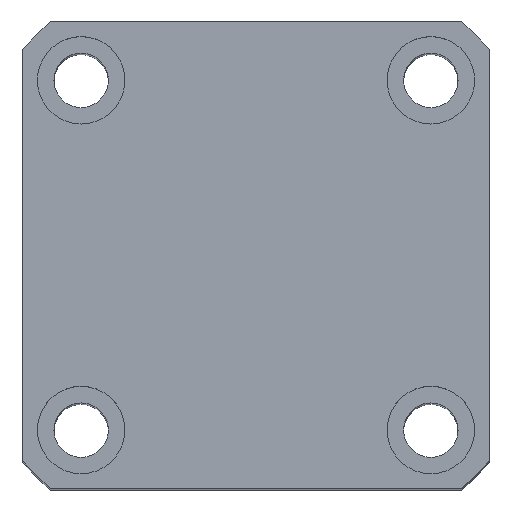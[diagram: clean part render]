
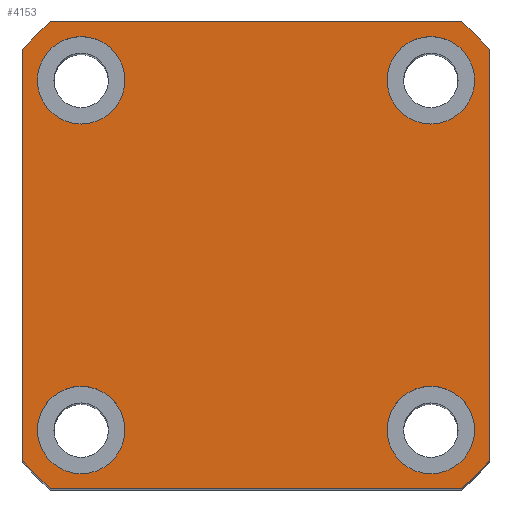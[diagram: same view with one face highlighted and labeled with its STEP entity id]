
A CAD part, top view. The second image highlights one B-rep face of the part: STEP entity #4153.
In plain terms, the highlighted planar face has unit normal (0, 0, 1) as drawn and (1, 0, 0) by its records, which use the part's own axes.
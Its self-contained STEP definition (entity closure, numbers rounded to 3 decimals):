
#33 = EDGE_CURVE ( 'NONE', #6769, #2540, #1278, .T. ) ;
#100 = LINE ( 'NONE', #640, #6467 ) ;
#264 = VERTEX_POINT ( 'NONE', #4826 ) ;
#270 = VERTEX_POINT ( 'NONE', #5014 ) ;
#342 = DIRECTION ( 'NONE',  ( 1., 0., 0. ) ) ;
#349 = CARTESIAN_POINT ( 'NONE',  ( 100., -18., -22.5 ) ) ;
#381 = CARTESIAN_POINT ( 'NONE',  ( 100., 24., 24. ) ) ;
#484 = CIRCLE ( 'NONE', #3973, 4.5 ) ;
#521 = AXIS2_PLACEMENT_3D ( 'NONE', #7913, #7947, #4277 ) ;
#545 = DIRECTION ( 'NONE',  ( -1., 0., 0. ) ) ;
#558 = EDGE_CURVE ( 'NONE', #4763, #7524, #595, .T. ) ;
#588 = AXIS2_PLACEMENT_3D ( 'NONE', #4273, #545, #4889 ) ;
#595 = LINE ( 'NONE', #6870, #6958 ) ;
#640 = CARTESIAN_POINT ( 'NONE',  ( 100., 24., -24. ) ) ;
#681 = EDGE_LOOP ( 'NONE', ( #4266, #5787 ) ) ;
#688 = DIRECTION ( 'NONE',  ( 0., 1., 0. ) ) ;
#706 = DIRECTION ( 'NONE',  ( 1., 0., 0. ) ) ;
#709 = CARTESIAN_POINT ( 'NONE',  ( 100., -18., 18. ) ) ;
#719 = DIRECTION ( 'NONE',  ( 0., 0., -1. ) ) ;
#743 = LINE ( 'NONE', #381, #5461 ) ;
#875 = VERTEX_POINT ( 'NONE', #2254 ) ;
#920 = AXIS2_PLACEMENT_3D ( 'NONE', #5704, #5692, #5678 ) ;
#937 = ORIENTED_EDGE ( 'NONE', *, *, #6387, .F. ) ;
#1027 = EDGE_CURVE ( 'NONE', #270, #1788, #5618, .T. ) ;
#1059 = VERTEX_POINT ( 'NONE', #5243 ) ;
#1118 = AXIS2_PLACEMENT_3D ( 'NONE', #4066, #342, #4688 ) ;
#1132 = CIRCLE ( 'NONE', #1408, 32. ) ;
#1152 = CARTESIAN_POINT ( 'NONE',  ( 100., 18., 18. ) ) ;
#1193 = EDGE_CURVE ( 'NONE', #7601, #2895, #5801, .T. ) ;
#1213 = EDGE_CURVE ( 'NONE', #875, #5323, #100, .T. ) ;
#1224 = FACE_OUTER_BOUND ( 'NONE', #7123, .T. ) ;
#1278 = CIRCLE ( 'NONE', #521, 4.5 ) ;
#1342 = EDGE_CURVE ( 'NONE', #2540, #6769, #484, .T. ) ;
#1405 = CARTESIAN_POINT ( 'NONE',  ( 100., 0., 0. ) ) ;
#1408 = AXIS2_PLACEMENT_3D ( 'NONE', #2735, #7054, #3386 ) ;
#1440 = ORIENTED_EDGE ( 'NONE', *, *, #1342, .F. ) ;
#1442 = VERTEX_POINT ( 'NONE', #7997 ) ;
#1455 = AXIS2_PLACEMENT_3D ( 'NONE', #709, #706, #719 ) ;
#1573 = EDGE_CURVE ( 'NONE', #264, #5221, #1826, .T. ) ;
#1577 = FACE_BOUND ( 'NONE', #6573, .T. ) ;
#1741 = DIRECTION ( 'NONE',  ( 0., 0., -1. ) ) ;
#1773 = CIRCLE ( 'NONE', #1118, 4.5 ) ;
#1788 = VERTEX_POINT ( 'NONE', #2227 ) ;
#1826 = CIRCLE ( 'NONE', #920, 4.5 ) ;
#1879 = CARTESIAN_POINT ( 'NONE',  ( 100., -24., -21.166 ) ) ;
#2028 = DIRECTION ( 'NONE',  ( 0., 0., 1. ) ) ;
#2178 = ORIENTED_EDGE ( 'NONE', *, *, #33, .F. ) ;
#2192 = DIRECTION ( 'NONE',  ( 0., -1., 0. ) ) ;
#2227 = CARTESIAN_POINT ( 'NONE',  ( 100., 24., 21.166 ) ) ;
#2254 = CARTESIAN_POINT ( 'NONE',  ( 100., -21.166, -24. ) ) ;
#2282 = CARTESIAN_POINT ( 'NONE',  ( 100., -18., 18. ) ) ;
#2412 = CARTESIAN_POINT ( 'NONE',  ( 100., 0., 0. ) ) ;
#2442 = DIRECTION ( 'NONE',  ( 1., 0., 0. ) ) ;
#2530 = CARTESIAN_POINT ( 'NONE',  ( 100., 18., -18. ) ) ;
#2540 = VERTEX_POINT ( 'NONE', #349 ) ;
#2594 = ORIENTED_EDGE ( 'NONE', *, *, #1213, .T. ) ;
#2735 = CARTESIAN_POINT ( 'NONE',  ( 100., 0., 0. ) ) ;
#2852 = FACE_BOUND ( 'NONE', #681, .T. ) ;
#2895 = VERTEX_POINT ( 'NONE', #6488 ) ;
#2919 = CARTESIAN_POINT ( 'NONE',  ( 100., 18., -22.5 ) ) ;
#2938 = DIRECTION ( 'NONE',  ( 0., 0., -1. ) ) ;
#2940 = ORIENTED_EDGE ( 'NONE', *, *, #5316, .F. ) ;
#3181 = DIRECTION ( 'NONE',  ( 0., 0., -1. ) ) ;
#3241 = DIRECTION ( 'NONE',  ( -1., 0., 0. ) ) ;
#3386 = DIRECTION ( 'NONE',  ( 0., 0., 1. ) ) ;
#3557 = ORIENTED_EDGE ( 'NONE', *, *, #4796, .F. ) ;
#3696 = PLANE ( 'NONE',  #7493 ) ;
#3933 = CIRCLE ( 'NONE', #6888, 32. ) ;
#3973 = AXIS2_PLACEMENT_3D ( 'NONE', #7437, #6752, #5654 ) ;
#3975 = EDGE_LOOP ( 'NONE', ( #7697, #4718 ) ) ;
#4019 = AXIS2_PLACEMENT_3D ( 'NONE', #2530, #6857, #3181 ) ;
#4030 = CARTESIAN_POINT ( 'NONE',  ( 100., 18., 13.5 ) ) ;
#4066 = CARTESIAN_POINT ( 'NONE',  ( 100., 18., 18. ) ) ;
#4153 = ADVANCED_FACE ( 'NONE', ( #1577, #6131, #4536, #2852, #1224 ), #3696, .T. ) ;
#4266 = ORIENTED_EDGE ( 'NONE', *, *, #5761, .F. ) ;
#4273 = CARTESIAN_POINT ( 'NONE',  ( 100., 0., 0. ) ) ;
#4277 = DIRECTION ( 'NONE',  ( 0., 0., -1. ) ) ;
#4335 = AXIS2_PLACEMENT_3D ( 'NONE', #1405, #5739, #2028 ) ;
#4536 = FACE_BOUND ( 'NONE', #6762, .T. ) ;
#4548 = VERTEX_POINT ( 'NONE', #5338 ) ;
#4688 = DIRECTION ( 'NONE',  ( 0., 0., -1. ) ) ;
#4718 = ORIENTED_EDGE ( 'NONE', *, *, #6780, .F. ) ;
#4763 = VERTEX_POINT ( 'NONE', #5197 ) ;
#4782 = ORIENTED_EDGE ( 'NONE', *, *, #5460, .F. ) ;
#4796 = EDGE_CURVE ( 'NONE', #270, #5323, #1132, .T. ) ;
#4826 = CARTESIAN_POINT ( 'NONE',  ( 100., 18., -13.5 ) ) ;
#4889 = DIRECTION ( 'NONE',  ( 0., 0., 1. ) ) ;
#5014 = CARTESIAN_POINT ( 'NONE',  ( 100., 24., -21.166 ) ) ;
#5197 = CARTESIAN_POINT ( 'NONE',  ( 100., -24., 21.166 ) ) ;
#5221 = VERTEX_POINT ( 'NONE', #2919 ) ;
#5243 = CARTESIAN_POINT ( 'NONE',  ( 100., -21.166, 24. ) ) ;
#5316 = EDGE_CURVE ( 'NONE', #4763, #1059, #7565, .T. ) ;
#5323 = VERTEX_POINT ( 'NONE', #7300 ) ;
#5338 = CARTESIAN_POINT ( 'NONE',  ( 100., 21.166, 24. ) ) ;
#5378 = DIRECTION ( 'NONE',  ( 0., 0., 1. ) ) ;
#5380 = CARTESIAN_POINT ( 'NONE',  ( 100., -18., -13.5 ) ) ;
#5460 = EDGE_CURVE ( 'NONE', #4548, #1788, #7366, .T. ) ;
#5461 = VECTOR ( 'NONE', #2192, 1000. ) ;
#5463 = DIRECTION ( 'NONE',  ( 1., 0., 0. ) ) ;
#5618 = LINE ( 'NONE', #5728, #7225 ) ;
#5654 = DIRECTION ( 'NONE',  ( 0., 0., -1. ) ) ;
#5678 = DIRECTION ( 'NONE',  ( 0., 0., -1. ) ) ;
#5692 = DIRECTION ( 'NONE',  ( 1., 0., 0. ) ) ;
#5704 = CARTESIAN_POINT ( 'NONE',  ( 100., 18., -18. ) ) ;
#5728 = CARTESIAN_POINT ( 'NONE',  ( 100., 24., 24. ) ) ;
#5739 = DIRECTION ( 'NONE',  ( -1., 0., 0. ) ) ;
#5761 = EDGE_CURVE ( 'NONE', #7224, #1442, #7848, .T. ) ;
#5787 = ORIENTED_EDGE ( 'NONE', *, *, #6082, .F. ) ;
#5801 = CIRCLE ( 'NONE', #1455, 4.5 ) ;
#5929 = ORIENTED_EDGE ( 'NONE', *, *, #6642, .T. ) ;
#5998 = ORIENTED_EDGE ( 'NONE', *, *, #1027, .T. ) ;
#6082 = EDGE_CURVE ( 'NONE', #1442, #7224, #1773, .T. ) ;
#6100 = ORIENTED_EDGE ( 'NONE', *, *, #558, .T. ) ;
#6131 = FACE_BOUND ( 'NONE', #3975, .T. ) ;
#6327 = EDGE_CURVE ( 'NONE', #5221, #264, #7173, .T. ) ;
#6379 = AXIS2_PLACEMENT_3D ( 'NONE', #1152, #5463, #1741 ) ;
#6387 = EDGE_CURVE ( 'NONE', #875, #7524, #3933, .T. ) ;
#6467 = VECTOR ( 'NONE', #688, 1000. ) ;
#6488 = CARTESIAN_POINT ( 'NONE',  ( 100., -18., 22.5 ) ) ;
#6573 = EDGE_LOOP ( 'NONE', ( #1440, #2178 ) ) ;
#6619 = DIRECTION ( 'NONE',  ( 1., 0., 0. ) ) ;
#6624 = ORIENTED_EDGE ( 'NONE', *, *, #6327, .F. ) ;
#6642 = EDGE_CURVE ( 'NONE', #4548, #1059, #743, .T. ) ;
#6752 = DIRECTION ( 'NONE',  ( 1., 0., 0. ) ) ;
#6762 = EDGE_LOOP ( 'NONE', ( #6624, #7978 ) ) ;
#6763 = DIRECTION ( 'NONE',  ( 0., 0., -1. ) ) ;
#6767 = DIRECTION ( 'NONE',  ( 0., 0., -1. ) ) ;
#6769 = VERTEX_POINT ( 'NONE', #5380 ) ;
#6780 = EDGE_CURVE ( 'NONE', #2895, #7601, #6894, .T. ) ;
#6857 = DIRECTION ( 'NONE',  ( 1., 0., 0. ) ) ;
#6870 = CARTESIAN_POINT ( 'NONE',  ( 100., -24., 24. ) ) ;
#6888 = AXIS2_PLACEMENT_3D ( 'NONE', #6906, #3241, #7521 ) ;
#6894 = CIRCLE ( 'NONE', #7958, 4.5 ) ;
#6906 = CARTESIAN_POINT ( 'NONE',  ( 100., 0., 0. ) ) ;
#6958 = VECTOR ( 'NONE', #6767, 1000. ) ;
#7054 = DIRECTION ( 'NONE',  ( -1., 0., 0. ) ) ;
#7123 = EDGE_LOOP ( 'NONE', ( #2594, #3557, #5998, #4782, #5929, #2940, #6100, #937 ) ) ;
#7173 = CIRCLE ( 'NONE', #4019, 4.5 ) ;
#7224 = VERTEX_POINT ( 'NONE', #4030 ) ;
#7225 = VECTOR ( 'NONE', #5378, 1000. ) ;
#7300 = CARTESIAN_POINT ( 'NONE',  ( 100., 21.166, -24. ) ) ;
#7366 = CIRCLE ( 'NONE', #4335, 32. ) ;
#7437 = CARTESIAN_POINT ( 'NONE',  ( 100., -18., -18. ) ) ;
#7471 = CARTESIAN_POINT ( 'NONE',  ( 100., -18., 13.5 ) ) ;
#7493 = AXIS2_PLACEMENT_3D ( 'NONE', #2412, #2442, #6763 ) ;
#7521 = DIRECTION ( 'NONE',  ( 0., 0., 1. ) ) ;
#7524 = VERTEX_POINT ( 'NONE', #1879 ) ;
#7565 = CIRCLE ( 'NONE', #588, 32. ) ;
#7601 = VERTEX_POINT ( 'NONE', #7471 ) ;
#7697 = ORIENTED_EDGE ( 'NONE', *, *, #1193, .F. ) ;
#7848 = CIRCLE ( 'NONE', #6379, 4.5 ) ;
#7913 = CARTESIAN_POINT ( 'NONE',  ( 100., -18., -18. ) ) ;
#7947 = DIRECTION ( 'NONE',  ( 1., 0., 0. ) ) ;
#7958 = AXIS2_PLACEMENT_3D ( 'NONE', #2282, #6619, #2938 ) ;
#7978 = ORIENTED_EDGE ( 'NONE', *, *, #1573, .F. ) ;
#7997 = CARTESIAN_POINT ( 'NONE',  ( 100., 18., 22.5 ) ) ;
